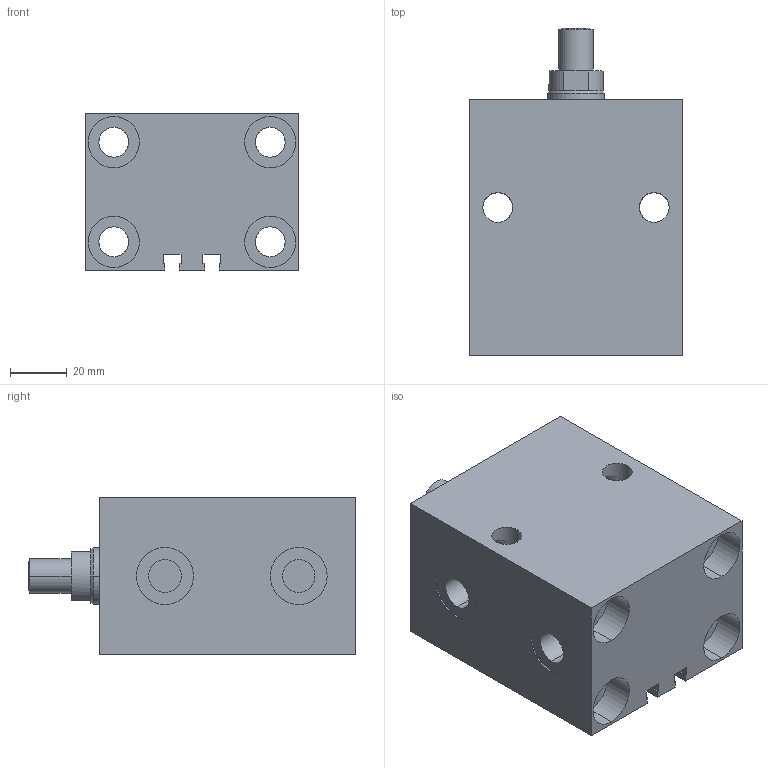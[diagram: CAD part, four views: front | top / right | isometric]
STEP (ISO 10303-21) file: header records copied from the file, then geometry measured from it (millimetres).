
FILE_DESCRIPTION (( 'STEP AP203' ), '1' );
FILE_NAME ('GERMA_Blockzylinder_700-032-025-A.STEP', '2016-07-22T09:02:29', ( '' ), ( '' ), 'SwSTEP 2.0', 'SolidWorks 2015', '' );
FILE_SCHEMA (( 'CONFIG_CONTROL_DESIGN' ));
Length unit declared in the file: millimetre
Products named in the file (3): GH-700-032_GH-700-032-025; Kolben_MT 70x-032_Kolben_MT DU.32-Hub25-AG; GERMA_Blockzylinder_700-032-025-A
Assembly tree (2 placements, depth 2):
  GERMA_Blockzylinder_700-032-025-A
    GH-700-032_GH-700-032-025
    Kolben_MT 70x-032_Kolben_MT DU.32-Hub25-AG
Bounding box: 75 x 115 x 55 mm (x, y, z)
Volume: 302184.1 mm3; surface area: 65225.7 mm2
Topology: 2 solids, 2 shells, 132 faces, 312 edges, 193 vertices
Faces by surface type: cylinder 73, plane 47, cone 12
Entity records: 4106 total; most frequent: CARTESIAN_POINT 734, DIRECTION 675, ORIENTED_EDGE 616, EDGE_CURVE 308, AXIS2_PLACEMENT_3D 262, VERTEX_POINT 193, EDGE_LOOP 165, VECTOR 151
